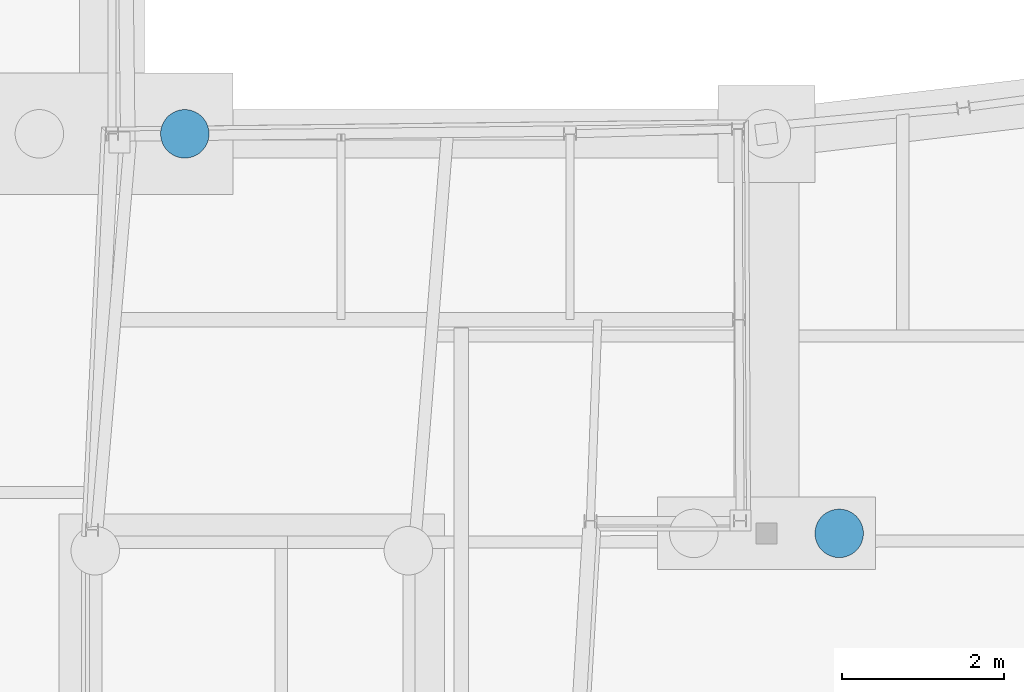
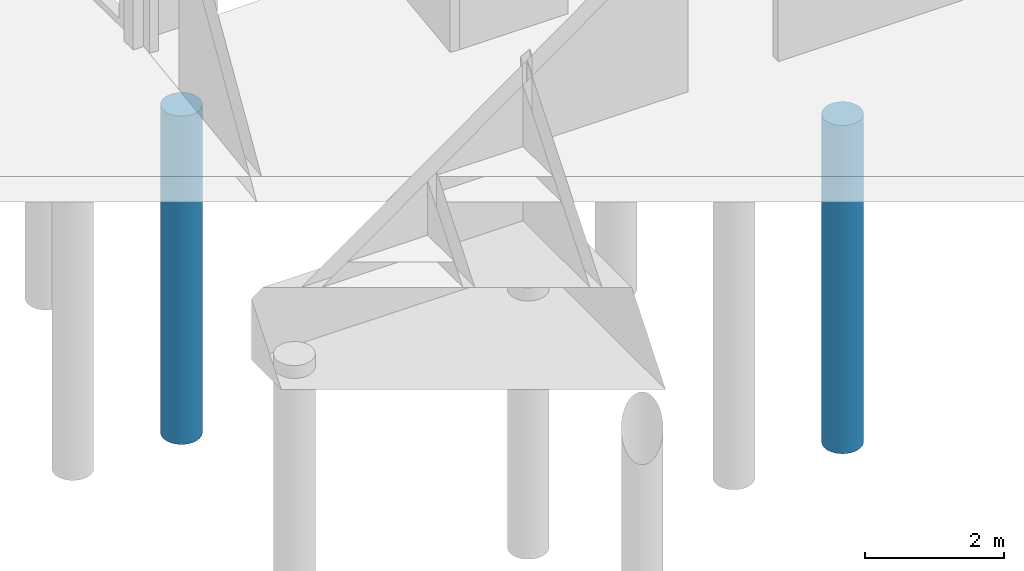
# One storey, part 48 of 82: 2 columns.
"""IFC2X3 building model written with IfcOpenShell, lengths in millimetres."""

from ifc_helpers import new_model, si_unit, frame, frame_2d, origin_with_axes, place, context, subcontext, project, spatial, circle, extrude, material, type_object, element, save


model = new_model("IFC2X3")

# Units and contexts
model_context = context("Model", 3, precision=1e-05, world=origin_with_axes())
body_context = subcontext(model_context, "Body", "Model", "MODEL_VIEW")
ifc_project = project(units=[si_unit("LENGTHUNIT", "METRE", prefix="MILLI"), si_unit("AREAUNIT", "SQUARE_METRE"), si_unit("VOLUMEUNIT", "CUBIC_METRE"), si_unit("MASSUNIT", "GRAM", prefix="KILO"), si_unit("TIMEUNIT", "SECOND"), si_unit("PLANEANGLEUNIT", "RADIAN"), si_unit("SOLIDANGLEUNIT", "STERADIAN"), si_unit("THERMODYNAMICTEMPERATUREUNIT", "DEGREE_CELSIUS"), si_unit("LUMINOUSINTENSITYUNIT", "LUMEN")], contexts=[model_context])

# Site, building, storey
site_placement = place(None, origin_with_axes())
site = spatial("IfcSite", under=ifc_project, at=site_placement, Name="Undefined", CompositionType="ELEMENT")
building_placement = place(site_placement, origin_with_axes())
building = spatial("IfcBuilding", under=site, at=building_placement, Name="Undefined", CompositionType="ELEMENT")
storey_placement = place(building_placement, origin_with_axes())
storey = spatial("IfcBuildingStorey", under=building, at=storey_placement, Name="Undefined", CompositionType="ELEMENT", Elevation=0.0)

# Columns
ifc_material = material(Name="CONCRETE/C25/30")
column_type = type_object("IfcColumnType", Name="D600", PredefinedType="NOTDEFINED")
for number, where, z_axis, x_axis in (
    (1, (30150.7883214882, 23544.9995727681, -7175.0), (0.0, 0.0, 1.0), (1.0, 0.0, 0.0)),
    (2, (38249.999999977, 18599.9999999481, -7175.0), (0.0, 0.0, 1.0), (1.0, 0.0, 0.0)),
):
    element("IfcColumn", number, at=place(storey_placement, frame(where, z_axis=z_axis, x_axis=x_axis)), inside=storey, type_object=column_type, material=ifc_material, Name="PIEU", ObjectType="D600", context=body_context, shape_type="SweptSolid", body=[
        extrude(circle(Radius=300.0, at=frame_2d((5.17284206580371e-08, 4.49290382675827e-10), x_axis=(1.0, 0.0))), frame((0.0, 0.0, 5750.0), z_axis=(0.0, -6.50000002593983e-08, -0.999999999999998), x_axis=(0.0, 1.0, 0.0)), (0.0, 0.0, 1.0), 5750.0),
    ])

save(model, "model.ifc")
